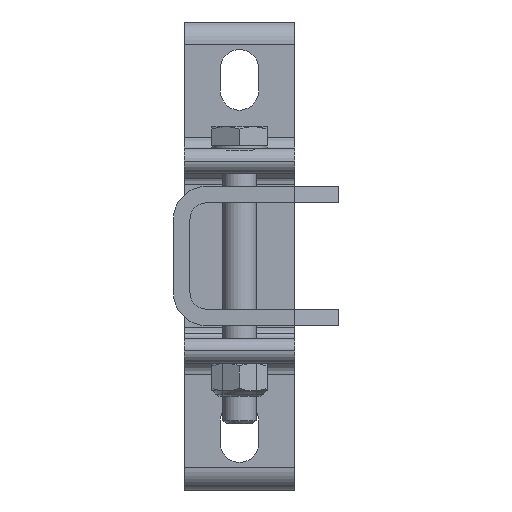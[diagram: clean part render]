
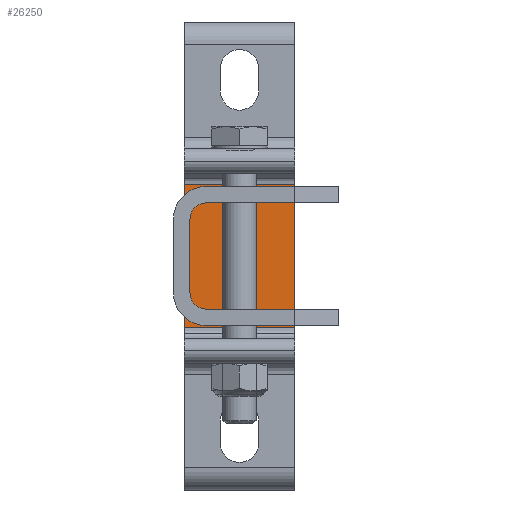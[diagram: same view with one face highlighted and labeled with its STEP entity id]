
A CAD part, front view. The second image highlights one B-rep face of the part: STEP entity #26250.
In plain terms, the highlighted planar face has unit normal (0, -1, 0) as drawn and (0, 1, 0) by its records, which use the part's own axes.
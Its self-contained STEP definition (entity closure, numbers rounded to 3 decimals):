
#1146 = VERTEX_POINT ( 'NONE', #16700 ) ;
#2463 = DIRECTION ( 'NONE',  ( 0., 0., -1. ) ) ;
#6498 = DIRECTION ( 'NONE',  ( 0., -1., 0. ) ) ;
#7368 = LINE ( 'NONE', #35965, #11734 ) ;
#7680 = DIRECTION ( 'NONE',  ( -1., 0., 0. ) ) ;
#9966 = VECTOR ( 'NONE', #7680, 1000. ) ;
#11646 = LINE ( 'NONE', #12981, #36080 ) ;
#11734 = VECTOR ( 'NONE', #18015, 1000. ) ;
#12361 = LINE ( 'NONE', #23669, #9966 ) ;
#12501 = FACE_OUTER_BOUND ( 'NONE', #12661, .T. ) ;
#12661 = EDGE_LOOP ( 'NONE', ( #18606, #12819, #24514, #34761 ) ) ;
#12688 = EDGE_CURVE ( 'NONE', #36234, #17014, #12361, .T. ) ;
#12819 = ORIENTED_EDGE ( 'NONE', *, *, #20525, .T. ) ;
#12981 = CARTESIAN_POINT ( 'NONE',  ( 13., 5.5, -10. ) ) ;
#13817 = CARTESIAN_POINT ( 'NONE',  ( -15., 5.5, 10. ) ) ;
#15124 = VERTEX_POINT ( 'NONE', #27284 ) ;
#16700 = CARTESIAN_POINT ( 'NONE',  ( -13., 5.5, 10. ) ) ;
#17014 = VERTEX_POINT ( 'NONE', #19413 ) ;
#18015 = DIRECTION ( 'NONE',  ( -1., 0., 0. ) ) ;
#18606 = ORIENTED_EDGE ( 'NONE', *, *, #12688, .T. ) ;
#19413 = CARTESIAN_POINT ( 'NONE',  ( -13., 5.5, -10. ) ) ;
#19493 = CARTESIAN_POINT ( 'NONE',  ( 13., 5.5, -10. ) ) ;
#20525 = EDGE_CURVE ( 'NONE', #17014, #1146, #40104, .T. ) ;
#22155 = DIRECTION ( 'NONE',  ( 0., 0., 1. ) ) ;
#23669 = CARTESIAN_POINT ( 'NONE',  ( -15., 5.5, -10. ) ) ;
#24514 = ORIENTED_EDGE ( 'NONE', *, *, #39303, .F. ) ;
#26250 = ADVANCED_FACE ( 'NONE', ( #12501 ), #31790, .F. ) ;
#27284 = CARTESIAN_POINT ( 'NONE',  ( 13., 5.5, 10. ) ) ;
#28507 = AXIS2_PLACEMENT_3D ( 'NONE', #13817, #6498, #2463 ) ;
#30114 = CARTESIAN_POINT ( 'NONE',  ( -13., 5.5, 10. ) ) ;
#31618 = EDGE_CURVE ( 'NONE', #15124, #36234, #11646, .T. ) ;
#31790 = PLANE ( 'NONE',  #28507 ) ;
#34290 = DIRECTION ( 'NONE',  ( 0., 0., -1. ) ) ;
#34761 = ORIENTED_EDGE ( 'NONE', *, *, #31618, .T. ) ;
#35965 = CARTESIAN_POINT ( 'NONE',  ( -15., 5.5, 10. ) ) ;
#36080 = VECTOR ( 'NONE', #34290, 1000. ) ;
#36234 = VERTEX_POINT ( 'NONE', #19493 ) ;
#37202 = VECTOR ( 'NONE', #22155, 1000. ) ;
#39303 = EDGE_CURVE ( 'NONE', #15124, #1146, #7368, .T. ) ;
#40104 = LINE ( 'NONE', #30114, #37202 ) ;
